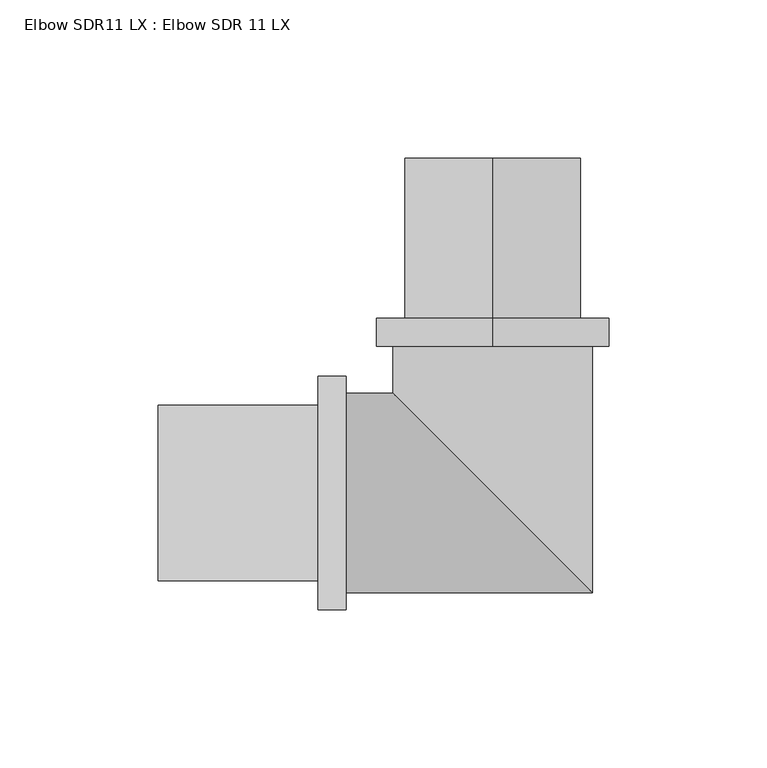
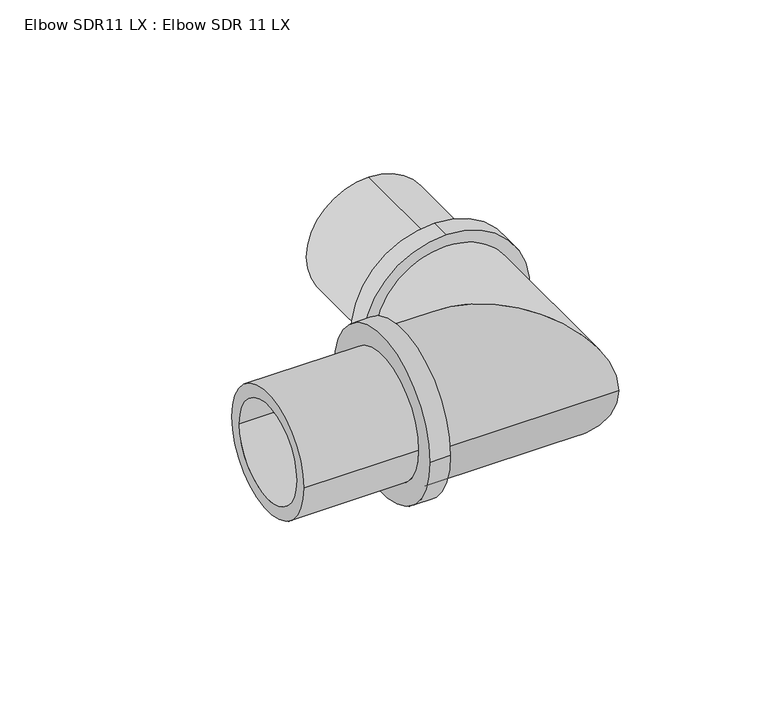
"""IFC4 building model written with IfcOpenShell, lengths in millimetres: pipe fitting geometry, Elbow SDR11 LX : Elbow SDR 11 LX."""

from ifc_helpers import new_model, si_unit, frame, origin, place, context, project, spatial, polyline, circle_curve, ellipse_curve, source, transform, mapped, element, save
from ifc_brep_helpers import plane_surface, cylinder_surface, revolved_surface, advanced_brep


def elbow_sdr11_lx_elbow_sdr_11_lx_f17d2660(model_context):
    return source(origin(), model_context, "Body", "AdvancedBrep", [
        advanced_brep(
        [(-46.4, -31.5, 0.0), (-46.4, 31.5, 0.0), (-46.4, -22.0, 0.0), (-46.4, 22.0, 0.0), (31.5, -31.5, 0.0), (-31.5, 31.5, 0.0), (22.0, -22.0, 0.0), (-22.0, 22.0, 0.0), (31.5, 46.4, 0.0), (-31.5, 46.4, 0.0), (22.0, 46.4, 0.0), (-22.0, 46.4, 0.0)],
        [
            (0, 1, circle_curve(frame((-46.4, 0.0, 0.0), z_axis=(-1.0, 0.0, 0.0), x_axis=(0.0, 1.0, 0.0)), 31.5)),
            (1, 0, circle_curve(frame((-46.4, 0.0, 0.0), z_axis=(-1.0, 0.0, 0.0), x_axis=(0.0, 1.0, 0.0)), 31.5)),
            (2, 3, circle_curve(frame((-46.4, 0.0, 0.0), z_axis=(1.0, 0.0, 0.0), x_axis=(0.0, 1.0, 0.0)), 22.0)),
            (3, 2, circle_curve(frame((-46.4, 0.0, 0.0), z_axis=(1.0, 0.0, 0.0), x_axis=(0.0, 1.0, 0.0)), 22.0)),
            (0, 4),
            (4, 5, ellipse_curve(frame((0.0, 0.0, 0.0), z_axis=(-0.7071067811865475, -0.7071067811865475, 0.0), x_axis=(-0.7071067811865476, 0.7071067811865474, 0.0)), 44.5477272, 31.5)),
            (5, 1),
            (5, 4, ellipse_curve(frame((0.0, 0.0, 0.0), z_axis=(-0.7071067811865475, -0.7071067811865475, 0.0), x_axis=(-0.7071067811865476, 0.7071067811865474, 0.0)), 44.5477272, 31.5)),
            (2, 6),
            (6, 7, ellipse_curve(frame((0.0, 0.0, 0.0), z_axis=(0.7071067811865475, 0.7071067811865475, 0.0), x_axis=(0.7071067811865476, -0.7071067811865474, 0.0)), 31.1126984, 22.0)),
            (7, 3),
            (7, 6, ellipse_curve(frame((0.0, 0.0, 0.0), z_axis=(0.7071067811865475, 0.7071067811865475, 0.0), x_axis=(0.7071067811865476, -0.7071067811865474, 0.0)), 31.1126984, 22.0)),
            (8, 9, circle_curve(frame((0.0, 46.4, 0.0), z_axis=(0.0, 1.0, 0.0), x_axis=(-1.0, 0.0, 0.0)), 31.5)),
            (9, 8, circle_curve(frame((0.0, 46.4, 0.0), z_axis=(0.0, 1.0, 0.0), x_axis=(-1.0, 0.0, 0.0)), 31.5)),
            (10, 11, circle_curve(frame((0.0, 46.4, 0.0), z_axis=(0.0, -1.0, 0.0), x_axis=(-1.0, 0.0, 0.0)), 22.0)),
            (11, 10, circle_curve(frame((0.0, 46.4, 0.0), z_axis=(0.0, -1.0, 0.0), x_axis=(-1.0, 0.0, 0.0)), 22.0)),
            (4, 8),
            (9, 5),
            (6, 10),
            (11, 7),
        ],
        [
            plane_surface(frame((-46.4, 0.0, 0.0), z_axis=(-1.0, 0.0, 0.0), x_axis=(0.0, 0.0, 1.0))),
            cylinder_surface(frame((-46.4, 0.0, 0.0), z_axis=(-1.0, 0.0, 0.0), x_axis=(0.0, 1.0, 0.0)), 31.5),
            revolved_surface(polyline([(22.000000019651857, 22.0, 0.0), (-46.4, 22.0, 0.0)]), (-46.4, 0.0, 0.0), (1.0, 0.0, 0.0)),
            plane_surface(frame((0.0, 46.4, 0.0), z_axis=(0.0, 1.0, 0.0), x_axis=(0.0, 0.0, 1.0))),
            cylinder_surface(frame((0.0, 0.0, 0.0), z_axis=(0.0, -1.0, 0.0), x_axis=(-1.0, 0.0, 0.0)), 31.5),
            revolved_surface(polyline([(-22.0, 46.4, 0.0), (-22.0, -22.000000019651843, 0.0)]), (0.0, 0.0, 0.0), (0.0, 1.0, 0.0)),
        ],
        [
            (0, [[1, 2], [3, 4]]),
            (1, [[-1, 5, 6, 7]]),
            (1, [[-2, -7, 8, -5]]),
            (2, [[-3, 9, 10, 11]]),
            (2, [[-4, -11, 12, -9]]),
            (3, [[13, 14], [15, 16]]),
            (4, [[-6, 17, -14, 18]]),
            (4, [[-8, -18, -13, -17]]),
            (5, [[-10, 19, -16, 20]]),
            (5, [[-12, -20, -15, -19]]),
        ],
    ),
        advanced_brep(
        [(0.0, 106.0, 22.0), (0.0, 106.0, -22.0), (0.0, 46.4, -22.0), (0.0, 46.4, 22.0), (0.0, 55.3, 27.8), (0.0, 55.3, -27.8), (0.0, 106.0, -27.8), (0.0, 106.0, 27.8), (0.0, 46.4, 37.0), (0.0, 46.4, -37.0), (0.0, 55.3, -37.0), (0.0, 55.3, 37.0)],
        [
            (0, 1, circle_curve(frame((0.0, 106.0, 0.0), z_axis=(0.0, 1.0, 0.0), x_axis=(0.0, 0.0, -1.0)), 22.0)),
            (1, 2),
            (2, 3, circle_curve(frame((0.0, 46.4, 0.0), z_axis=(0.0, -1.0, 0.0), x_axis=(0.0, 0.0, -1.0)), 22.0)),
            (3, 0),
            (4, 5, circle_curve(frame((0.0, 55.3, 0.0), z_axis=(0.0, 1.0, 0.0), x_axis=(0.0, 0.0, -1.0)), 27.8)),
            (5, 6),
            (6, 7, circle_curve(frame((0.0, 106.0, 0.0), z_axis=(0.0, -1.0, 0.0), x_axis=(0.0, 0.0, -1.0)), 27.8)),
            (7, 4),
            (8, 9, circle_curve(frame((0.0, 46.4, 0.0), z_axis=(0.0, 1.0, 0.0), x_axis=(0.0, 0.0, -1.0)), 37.0)),
            (9, 10),
            (10, 11, circle_curve(frame((0.0, 55.3, 0.0), z_axis=(0.0, -1.0, 0.0), x_axis=(0.0, 0.0, -1.0)), 37.0)),
            (11, 8),
            (1, 0, circle_curve(frame((0.0, 106.0, 0.0), z_axis=(0.0, 1.0, 0.0), x_axis=(0.0, 0.0, 1.0)), 22.0)),
            (3, 2, circle_curve(frame((0.0, 46.4, 0.0), z_axis=(0.0, -1.0, 0.0), x_axis=(0.0, 0.0, 1.0)), 22.0)),
            (6, 7, circle_curve(frame((0.0, 106.0, 0.0), z_axis=(0.0, 1.0, 0.0), x_axis=(0.0, 0.0, 1.0)), 27.8)),
            (5, 4, circle_curve(frame((0.0, 55.3, 0.0), z_axis=(0.0, 1.0, 0.0), x_axis=(0.0, 0.0, 1.0)), 27.8)),
            (10, 11, circle_curve(frame((0.0, 55.3, 0.0), z_axis=(0.0, 1.0, 0.0), x_axis=(0.0, 0.0, 1.0)), 37.0)),
            (9, 8, circle_curve(frame((0.0, 46.4, 0.0), z_axis=(0.0, 1.0, 0.0), x_axis=(0.0, 0.0, 1.0)), 37.0)),
        ],
        [
            revolved_surface(polyline([(0.0, 46.4, -22.0), (0.0, 106.0, -22.0)]), (0.0, 0.0, 0.0), (0.0, -1.0, 0.0)),
            cylinder_surface(frame((0.0, 0.0, 0.0), z_axis=(0.0, -1.0, 0.0), x_axis=(0.0, 0.0, -1.0)), 27.8),
            cylinder_surface(frame((0.0, 0.0, 0.0), z_axis=(0.0, -1.0, 0.0), x_axis=(0.0, 0.0, -1.0)), 37.0),
            revolved_surface(polyline([(0.0, 46.4, 22.0), (0.0, 106.0, 22.0)]), (0.0, 0.0, 0.0), (0.0, -1.0, 0.0)),
            plane_surface(frame((0.0, 106.0, 0.0), z_axis=(0.0, 1.0, 0.0), x_axis=(0.0, 0.0, 1.0))),
            cylinder_surface(frame((0.0, 0.0, 0.0), z_axis=(0.0, -1.0, 0.0), x_axis=(0.0, 0.0, 1.0)), 27.8),
            plane_surface(frame((0.0, 55.3, 0.0), z_axis=(0.0, 1.0, 0.0), x_axis=(0.0, 0.0, 1.0))),
            cylinder_surface(frame((0.0, 0.0, 0.0), z_axis=(0.0, -1.0, 0.0), x_axis=(0.0, 0.0, 1.0)), 37.0),
            plane_surface(frame((0.0, 46.4, 0.0), z_axis=(0.0, -1.0, 0.0), x_axis=(0.0, 0.0, 1.0))),
        ],
        [
            (0, [[1, 2, 3, 4]]),
            (1, [[5, 6, 7, 8]]),
            (2, [[9, 10, 11, 12]]),
            (3, [[13, -4, 14, -2]]),
            (4, [[15, -7], [-13, -1]]),
            (5, [[16, -8, -15, -6]]),
            (6, [[17, -11], [-16, -5]]),
            (7, [[18, -12, -17, -10]]),
            (8, [[-18, -9], [-14, -3]]),
        ],
    ),
        advanced_brep(
        [(-46.4, 37.0, 0.0), (-46.4, -37.0, 0.0), (-55.3, -37.0, 0.0), (-55.3, 37.0, 0.0), (-55.3, 27.8, 0.0), (-55.3, -27.8, 0.0), (-106.0, -27.8, 0.0), (-106.0, 27.8, 0.0), (-106.0, 22.0, 0.0), (-106.0, -22.0, 0.0), (-46.4, -22.0, 0.0), (-46.4, 22.0, 0.0)],
        [
            (0, 1, circle_curve(frame((-46.4, 0.0, 0.0), z_axis=(-1.0, 0.0, 0.0), x_axis=(0.0, -1.0, 0.0)), 37.0)),
            (1, 2),
            (2, 3, circle_curve(frame((-55.3, 0.0, 0.0), z_axis=(1.0, 0.0, 0.0), x_axis=(0.0, -1.0, 0.0)), 37.0)),
            (3, 0),
            (4, 5, circle_curve(frame((-55.3, 0.0, 0.0), z_axis=(-1.0, 0.0, 0.0), x_axis=(0.0, -1.0, 0.0)), 27.8)),
            (5, 6),
            (6, 7, circle_curve(frame((-106.0, 0.0, 0.0), z_axis=(1.0, 0.0, 0.0), x_axis=(0.0, -1.0, 0.0)), 27.8)),
            (7, 4),
            (8, 9, circle_curve(frame((-106.0, 0.0, 0.0), z_axis=(-1.0, 0.0, 0.0), x_axis=(0.0, -1.0, 0.0)), 22.0)),
            (9, 10),
            (10, 11, circle_curve(frame((-46.4, 0.0, 0.0), z_axis=(1.0, 0.0, 0.0), x_axis=(0.0, -1.0, 0.0)), 22.0)),
            (11, 8),
            (0, 1, circle_curve(frame((-46.4, 0.0, 0.0), z_axis=(1.0, 0.0, 0.0), x_axis=(0.0, 1.0, 0.0)), 37.0)),
            (10, 11, circle_curve(frame((-46.4, 0.0, 0.0), z_axis=(-1.0, 0.0, 0.0), x_axis=(0.0, 1.0, 0.0)), 22.0)),
            (3, 2, circle_curve(frame((-55.3, 0.0, 0.0), z_axis=(1.0, 0.0, 0.0), x_axis=(0.0, 1.0, 0.0)), 37.0)),
            (4, 5, circle_curve(frame((-55.3, 0.0, 0.0), z_axis=(1.0, 0.0, 0.0), x_axis=(0.0, 1.0, 0.0)), 27.8)),
            (7, 6, circle_curve(frame((-106.0, 0.0, 0.0), z_axis=(1.0, 0.0, 0.0), x_axis=(0.0, 1.0, 0.0)), 27.8)),
            (8, 9, circle_curve(frame((-106.0, 0.0, 0.0), z_axis=(1.0, 0.0, 0.0), x_axis=(0.0, 1.0, 0.0)), 22.0)),
        ],
        [
            cylinder_surface(frame((0.0, 0.0, 0.0), z_axis=(1.0, 0.0, 0.0), x_axis=(0.0, -1.0, 0.0)), 37.0),
            cylinder_surface(frame((0.0, 0.0, 0.0), z_axis=(1.0, 0.0, 0.0), x_axis=(0.0, -1.0, 0.0)), 27.8),
            revolved_surface(polyline([(-46.4, -22.0, 0.0), (-106.0, -22.0, 0.0)]), (0.0, 0.0, 0.0), (1.0, 0.0, 0.0)),
            plane_surface(frame((-46.4, 0.0, 0.0), z_axis=(1.0, 0.0, 0.0), x_axis=(0.0, 1.0, 0.0))),
            cylinder_surface(frame((0.0, 0.0, 0.0), z_axis=(1.0, 0.0, 0.0), x_axis=(0.0, 1.0, 0.0)), 37.0),
            plane_surface(frame((-55.3, 0.0, 0.0), z_axis=(-1.0, 0.0, 0.0), x_axis=(0.0, 1.0, 0.0))),
            cylinder_surface(frame((0.0, 0.0, 0.0), z_axis=(1.0, 0.0, 0.0), x_axis=(0.0, 1.0, 0.0)), 27.8),
            plane_surface(frame((-106.0, 0.0, 0.0), z_axis=(-1.0, 0.0, 0.0), x_axis=(0.0, 1.0, 0.0))),
            revolved_surface(polyline([(-46.4, 22.0, 0.0), (-106.0, 22.0, 0.0)]), (0.0, 0.0, 0.0), (1.0, 0.0, 0.0)),
        ],
        [
            (0, [[1, 2, 3, 4]]),
            (1, [[5, 6, 7, 8]]),
            (2, [[9, 10, 11, 12]]),
            (3, [[13, -1], [14, -11]]),
            (4, [[-13, -4, 15, -2]]),
            (5, [[-15, -3], [16, -5]]),
            (6, [[-16, -8, 17, -6]]),
            (7, [[-17, -7], [18, -9]]),
            (8, [[-18, -12, -14, -10]]),
        ],
    ),
    ])


if __name__ == "__main__":
    model = new_model("IFC4")
    model_context = context("Model", 3, world=origin())
    ifc_project = project(units=[si_unit("LENGTHUNIT", "METRE", prefix="MILLI")], contexts=[model_context])
    site = spatial("IfcSite", under=ifc_project)
    building = spatial("IfcBuilding", under=site)
    placement = place(None, origin())
    elbow_sdr11_lx_elbow_sdr_11_lx_shape = elbow_sdr11_lx_elbow_sdr_11_lx_f17d2660(model_context)
    element("IfcPipeFitting", 1, ObjectType="Elbow SDR11 LX : Elbow SDR 11 LX", at=placement, inside=building, context=model_context, shape_type="MappedRepresentation", body=[
        mapped(elbow_sdr11_lx_elbow_sdr_11_lx_shape, transform((0.0, 0.0, 0.0), x_axis=(1.0, 0.0, 0.0), y_axis=(0.0, 1.0, 0.0), z_axis=(0.0, 0.0, 1.0))),
    ])
    save(model, "model.ifc")
